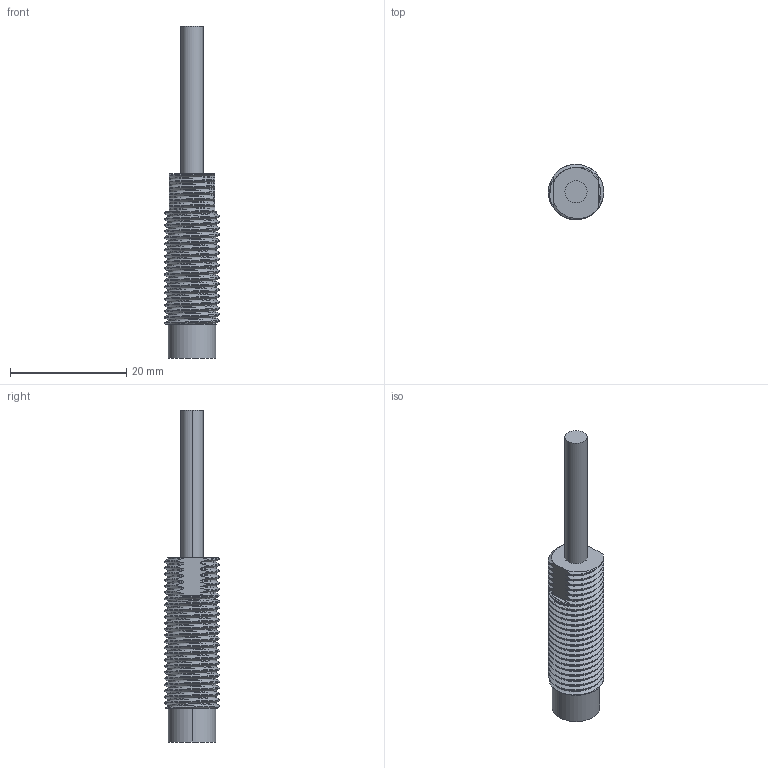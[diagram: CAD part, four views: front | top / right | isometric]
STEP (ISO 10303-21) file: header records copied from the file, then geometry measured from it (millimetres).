
FILE_DESCRIPTION (( 'STEP AP203' ), '1' );
FILE_NAME ('9C.STEP', '2010-03-05T18:55:38', ( 'tom edwards' ), ( 'Tom J. Edwards' ), 'SwSTEP 2.0', 'SolidWorks 2008', '' );
FILE_SCHEMA (( 'CONFIG_CONTROL_DESIGN' ));
Products named in the file (1): 9C
Bounding box: 9.53 x 9.52 x 57.15 mm (x, y, z)
Volume: 2183.3 mm3; surface area: 1715 mm2
Topology: 1 solids, 1 shells, 102 faces, 294 edges, 196 vertices
Faces by surface type: cylinder 53, bspline 40, plane 8, cone 1
Entity records: 55766 total; most frequent: CARTESIAN_POINT 53730, ORIENTED_EDGE 588, EDGE_CURVE 294, DIRECTION 217, VERTEX_POINT 196, EDGE_LOOP 104, FACE_OUTER_BOUND 102, ADVANCED_FACE 102
